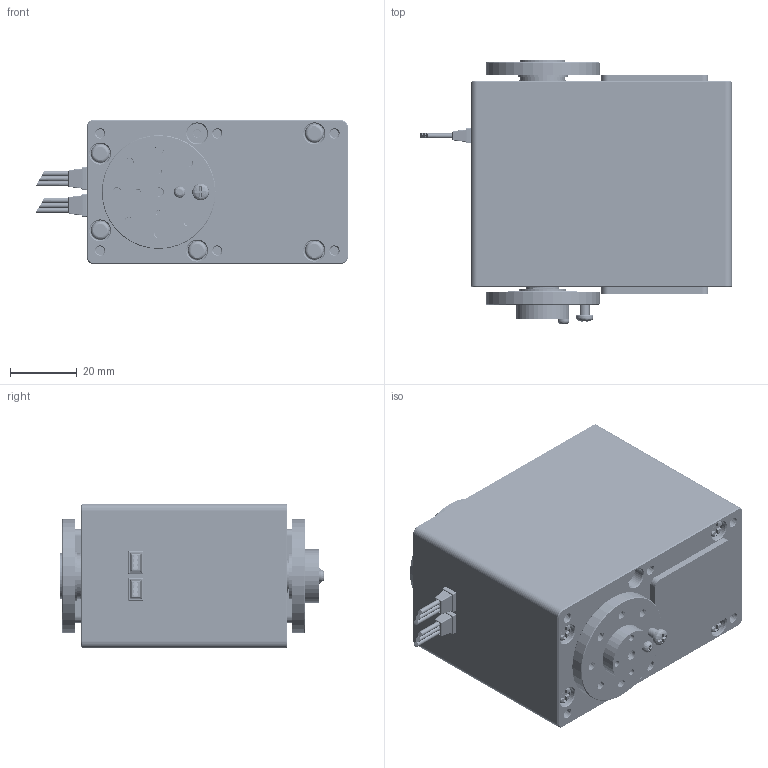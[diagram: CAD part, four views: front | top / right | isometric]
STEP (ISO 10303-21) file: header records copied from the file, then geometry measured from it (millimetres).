
FILE_DESCRIPTION(/* description */ (''),/* implementation_level */ '2;1');
FILE_NAME(/* name */ 'RSBL120-24.step',/* time_stamp */ '2024-04-30T11:39:12+08:00',/* author */ (''),/* organization */ (''),/* preprocessor_version */ 'ST-DEVELOPER v20',/* originating_system */ 'Autodesk Translation Framework v12.20.1.177',/* authorisation */ '');
FILE_SCHEMA (('AUTOMOTIVE_DESIGN { 1 0 10303 214 3 1 1 }'));
Products named in the file (17): sm120bl_asm-20190909_NOBRACKET; SM120BL_ASM_101_ASM; TOP_79; ZHONGGAI_102; XIAKE_75; MOTORGEAR_16; OUTPUTGEAR_41; L-1910ZZY5_5; M3X20_5; LF1280ZZ_4; WJ-DP00-0011_17; WJ-DP00-0010-2_23; WJ-FDP0-0005-DANPAN-20181204_4; PANG-20190417_3; LUOSI-M3-6_1_1; M2-4LOUSI_3; XIANTAO_1_1
Assembly tree (28 placements, depth 3):
  sm120bl_asm-20190909_NOBRACKET
    SM120BL_ASM_101_ASM
      TOP_79
      ZHONGGAI_102
      XIAKE_75
      MOTORGEAR_16
      L-1910ZZY5_5  x2
      OUTPUTGEAR_41
      M3X20_5  x11
      LF1280ZZ_4
      WJ-DP00-0011_17
      WJ-DP00-0010-2_23
      WJ-FDP0-0005-DANPAN-20181204_4
      PANG-20190417_3
      LUOSI-M3-6_1_1
      M2-4LOUSI_3
      XIANTAO_1_1  x2
Bounding box: 93.1 x 79.1 x 43 mm (x, y, z)
Volume: 88496.5 mm3; surface area: 69957 mm2
Topology: 27 solids, 27 shells, 3337 faces, 9214 edges, 5952 vertices
Faces by surface type: cylinder 1847, bspline 795, plane 581, cone 62, sphere 40, torus 12
Full cylindrical faces by diameter (mm): 1.5 x91, 2 x19, 2.3 x1, 2.5 x716, 3 x376, 3.05 x1, 3.1 x1, 3.5 x1, 4 x5, 5 x1, 5.6 x11, 6 x12, 8 x2, 10 x5, 10.3 x1, 12 x7, 13.5 x1, 13.6 x1, 14 x4, 14.5 x1, 15 x2, 16 x6, 19 x3, 26 x2, 34 x2
Entity records: 294381 total; most frequent: CARTESIAN_POINT 236918, ORIENTED_EDGE 13696, DIRECTION 9059, EDGE_CURVE 6848, VERTEX_POINT 4450, AXIS2_PLACEMENT_3D 3270, B_SPLINE_CURVE_WITH_KNOTS 2963, EDGE_LOOP 2654
